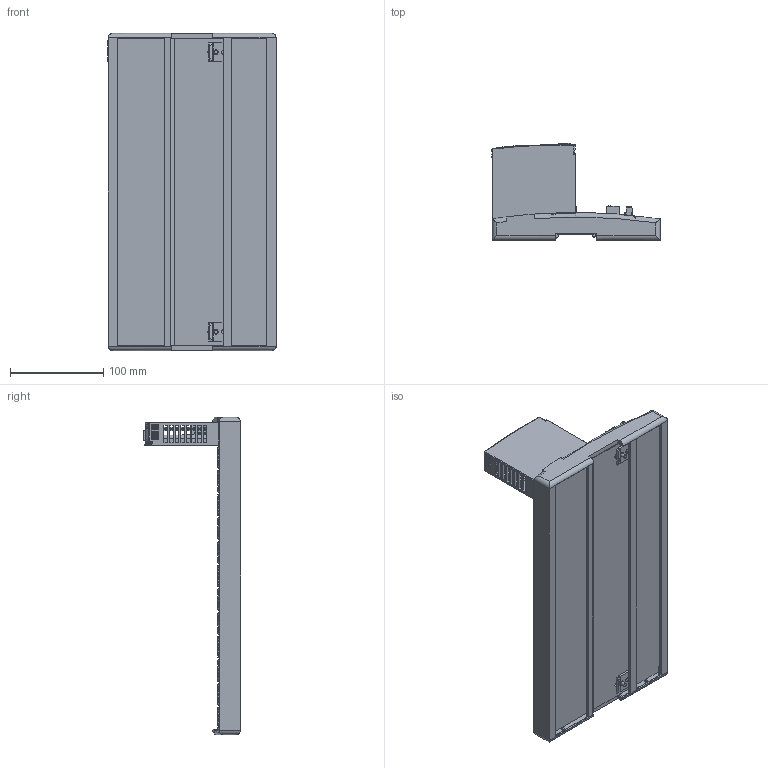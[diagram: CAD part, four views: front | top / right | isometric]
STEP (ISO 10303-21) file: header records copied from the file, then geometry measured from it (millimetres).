
FILE_DESCRIPTION((''),'2;1');
FILE_NAME('2500_12W_BLANK_IGESFILE','2012-04-11T',('chrisloe'),(''),'PRO/ENGINEER BY PARAMETRIC TECHNOLOGY CORPORATION, 2010180','PRO/ENGINEER BY PARAMETRIC TECHNOLOGY CORPORATION, 2010180','');
FILE_SCHEMA(('CONFIG_CONTROL_DESIGN'));
Products named in the file (1): 2500_12W_BLANK_IGESFILE
Bounding box: 180.4 x 104.1 x 340.2 mm (x, y, z)
Volume: 393048.8 mm3; surface area: 326851.3 mm2
Topology: 4 solids, 32 shells, 4409 faces, 12607 edges, 8109 vertices
Faces by surface type: plane 3291, cylinder 756, cone 185, bspline 106, torus 51, sphere 16, revolution 4
Entity records: 148827 total; most frequent: CARTESIAN_POINT 35145, ORIENTED_EDGE 25094, DIRECTION 21807, EDGE_CURVE 12551, VECTOR 8865, LINE 8865, VERTEX_POINT 8109, AXIS2_PLACEMENT_3D 6469
